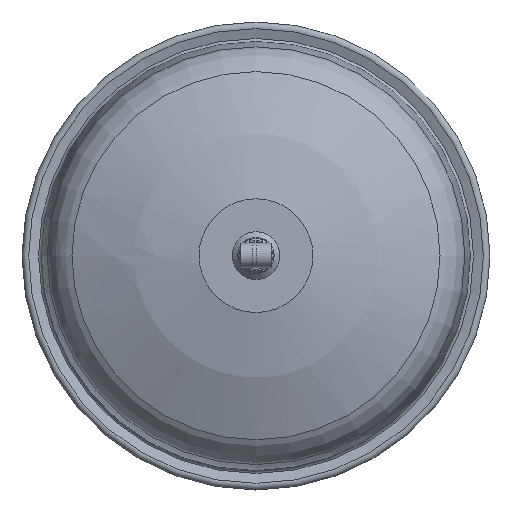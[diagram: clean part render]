
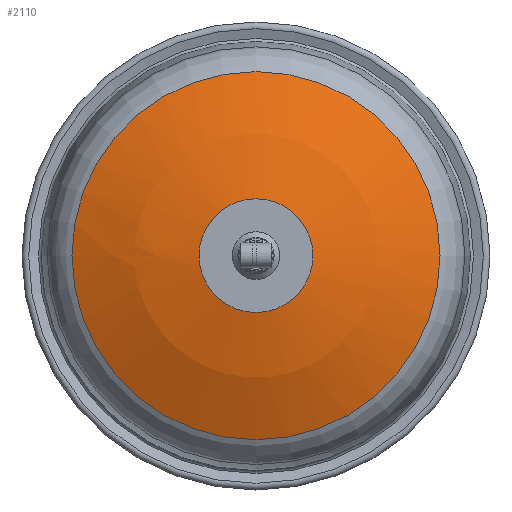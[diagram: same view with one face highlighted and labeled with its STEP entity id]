
A CAD part, top view. The second image highlights one B-rep face of the part: STEP entity #2110.
In plain terms, the highlighted spherical face has radius 327.55 mm.
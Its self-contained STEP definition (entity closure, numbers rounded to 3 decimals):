
#96=SPHERICAL_SURFACE('',#2276,327.55);
#639=FACE_OUTER_BOUND('',#749,.T.);
#749=EDGE_LOOP('',(#1560,#1561,#1562,#1563,#1564,#1565));
#885=CIRCLE('',#2273,140.809);
#886=CIRCLE('',#2274,140.809);
#888=CIRCLE('',#2277,43.507);
#889=CIRCLE('',#2278,43.507);
#890=CIRCLE('',#2279,327.55);
#988=VERTEX_POINT('',#3216);
#989=VERTEX_POINT('',#3217);
#990=VERTEX_POINT('',#3222);
#991=VERTEX_POINT('',#3223);
#1208=EDGE_CURVE('',#988,#989,#885,.T.);
#1209=EDGE_CURVE('',#989,#988,#886,.T.);
#1211=EDGE_CURVE('',#990,#991,#888,.T.);
#1212=EDGE_CURVE('',#991,#990,#889,.T.);
#1213=EDGE_CURVE('',#991,#989,#890,.T.);
#1560=ORIENTED_EDGE('',*,*,#1211,.F.);
#1561=ORIENTED_EDGE('',*,*,#1212,.F.);
#1562=ORIENTED_EDGE('',*,*,#1213,.T.);
#1563=ORIENTED_EDGE('',*,*,#1209,.T.);
#1564=ORIENTED_EDGE('',*,*,#1208,.T.);
#1565=ORIENTED_EDGE('',*,*,#1213,.F.);
#2110=ADVANCED_FACE('',(#639),#96,.T.);
#2273=AXIS2_PLACEMENT_3D('',#3218,#2545,#2546);
#2274=AXIS2_PLACEMENT_3D('',#3219,#2547,#2548);
#2276=AXIS2_PLACEMENT_3D('',#3221,#2551,#2552);
#2277=AXIS2_PLACEMENT_3D('',#3224,#2553,#2554);
#2278=AXIS2_PLACEMENT_3D('',#3225,#2555,#2556);
#2279=AXIS2_PLACEMENT_3D('',#3226,#2557,#2558);
#2545=DIRECTION('center_axis',(0.,0.,1.));
#2546=DIRECTION('ref_axis',(1.,0.,0.));
#2547=DIRECTION('center_axis',(0.,0.,1.));
#2548=DIRECTION('ref_axis',(1.,0.,0.));
#2551=DIRECTION('center_axis',(0.,0.,1.));
#2552=DIRECTION('ref_axis',(1.,0.,0.));
#2553=DIRECTION('center_axis',(0.,0.,1.));
#2554=DIRECTION('ref_axis',(1.,0.,0.));
#2555=DIRECTION('center_axis',(0.,0.,1.));
#2556=DIRECTION('ref_axis',(1.,0.,0.));
#2557=DIRECTION('center_axis',(0.,-1.,0.));
#2558=DIRECTION('ref_axis',(-1.,0.,0.));
#3216=CARTESIAN_POINT('',(140.809,0.,-48.908));
#3217=CARTESIAN_POINT('',(-140.809,0.,-48.908));
#3218=CARTESIAN_POINT('Origin',(0.,0.,-48.908));
#3219=CARTESIAN_POINT('Origin',(0.,0.,-48.908));
#3221=CARTESIAN_POINT('Origin',(0.,0.,-344.648));
#3222=CARTESIAN_POINT('',(43.507,0.,-20.));
#3223=CARTESIAN_POINT('',(-43.507,0.,-20.));
#3224=CARTESIAN_POINT('Origin',(0.,0.,-20.));
#3225=CARTESIAN_POINT('Origin',(0.,0.,-20.));
#3226=CARTESIAN_POINT('Origin',(0.,0.,-344.648));
